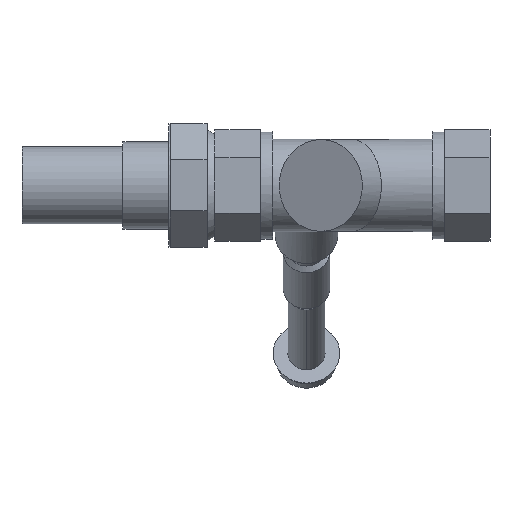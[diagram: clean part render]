
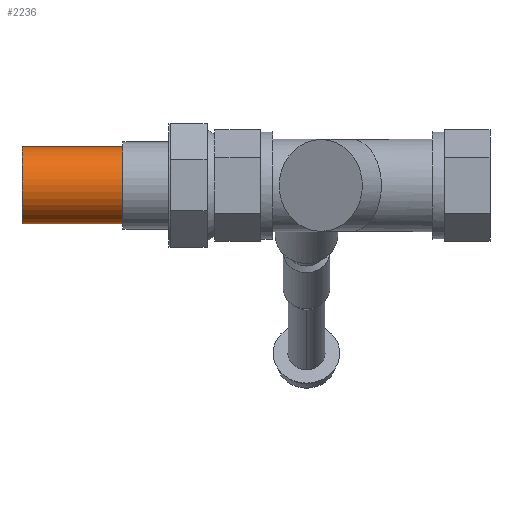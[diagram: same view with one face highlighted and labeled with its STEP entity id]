
A CAD part, front view. The second image highlights one B-rep face of the part: STEP entity #2236.
In plain terms, the highlighted cylindrical face has radius 10.668 mm (diameter 21.336 mm), a full revolution.
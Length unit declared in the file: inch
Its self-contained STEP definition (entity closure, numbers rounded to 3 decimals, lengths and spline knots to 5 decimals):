
#184=CYLINDRICAL_SURFACE('',#2487,0.42);
#280=FACE_OUTER_BOUND('',#418,.T.);
#418=EDGE_LOOP('',(#1850,#1851,#1852,#1853,#1854,#1855));
#550=CIRCLE('',#2479,0.42);
#551=CIRCLE('',#2480,0.42);
#556=CIRCLE('',#2488,0.42);
#557=CIRCLE('',#2489,0.42);
#709=LINE('',#3970,#867);
#867=VECTOR('',#3084,0.42);
#1054=VERTEX_POINT('',#3951);
#1055=VERTEX_POINT('',#3952);
#1060=VERTEX_POINT('',#3967);
#1061=VERTEX_POINT('',#3968);
#1324=EDGE_CURVE('',#1054,#1055,#550,.T.);
#1325=EDGE_CURVE('',#1055,#1054,#551,.T.);
#1331=EDGE_CURVE('',#1060,#1061,#556,.T.);
#1332=EDGE_CURVE('',#1061,#1055,#709,.T.);
#1333=EDGE_CURVE('',#1061,#1060,#557,.T.);
#1850=ORIENTED_EDGE('',*,*,#1331,.T.);
#1851=ORIENTED_EDGE('',*,*,#1332,.T.);
#1852=ORIENTED_EDGE('',*,*,#1325,.T.);
#1853=ORIENTED_EDGE('',*,*,#1324,.T.);
#1854=ORIENTED_EDGE('',*,*,#1332,.F.);
#1855=ORIENTED_EDGE('',*,*,#1333,.T.);
#2236=ADVANCED_FACE('',(#280),#184,.T.);
#2479=AXIS2_PLACEMENT_3D('',#3953,#3063,#3064);
#2480=AXIS2_PLACEMENT_3D('',#3954,#3065,#3066);
#2487=AXIS2_PLACEMENT_3D('',#3966,#3080,#3081);
#2488=AXIS2_PLACEMENT_3D('',#3969,#3082,#3083);
#2489=AXIS2_PLACEMENT_3D('',#3971,#3085,#3086);
#3063=DIRECTION('center_axis',(1.,0.,0.));
#3064=DIRECTION('ref_axis',(0.,0.,-1.));
#3065=DIRECTION('center_axis',(1.,0.,0.));
#3066=DIRECTION('ref_axis',(0.,0.,-1.));
#3080=DIRECTION('center_axis',(1.,0.,0.));
#3081=DIRECTION('ref_axis',(0.,1.,0.));
#3082=DIRECTION('center_axis',(-1.,0.,0.));
#3083=DIRECTION('ref_axis',(0.,1.,0.));
#3084=DIRECTION('',(-1.,0.,0.));
#3085=DIRECTION('center_axis',(-1.,0.,0.));
#3086=DIRECTION('ref_axis',(0.,1.,0.));
#3951=CARTESIAN_POINT('',(-3.6,0.42,0.));
#3952=CARTESIAN_POINT('',(-3.6,-0.42,0.));
#3953=CARTESIAN_POINT('Origin',(-3.6,0.,0.));
#3954=CARTESIAN_POINT('Origin',(-3.6,0.,0.));
#3966=CARTESIAN_POINT('Origin',(-2.3,0.,0.));
#3967=CARTESIAN_POINT('',(-2.5,0.42,0.));
#3968=CARTESIAN_POINT('',(-2.5,-0.42,0.));
#3969=CARTESIAN_POINT('Origin',(-2.5,0.,0.));
#3970=CARTESIAN_POINT('',(-2.3,-0.42,0.));
#3971=CARTESIAN_POINT('Origin',(-2.5,0.,0.));
